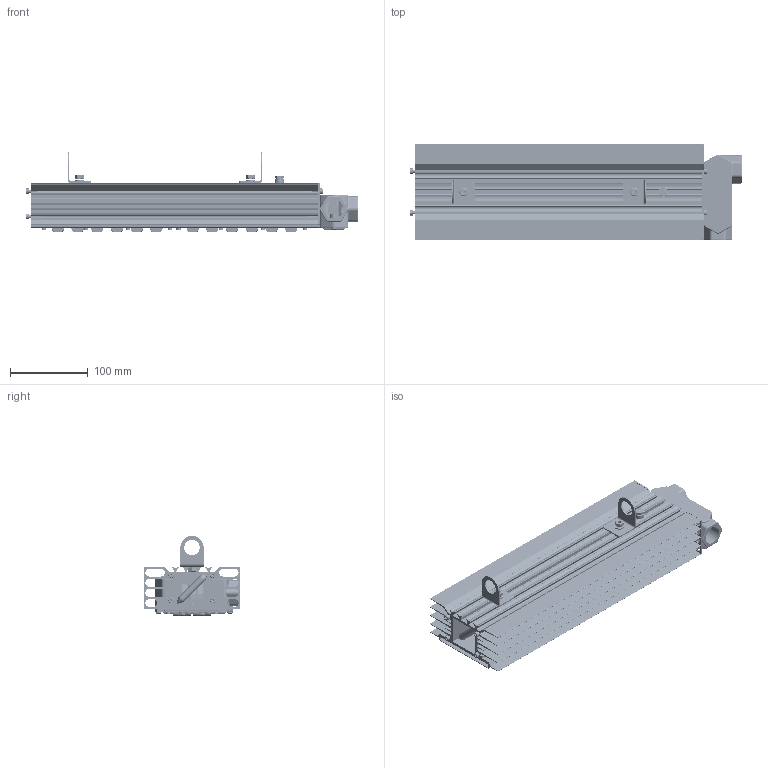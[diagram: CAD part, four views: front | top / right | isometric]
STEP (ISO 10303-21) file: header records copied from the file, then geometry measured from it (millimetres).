
FILE_DESCRIPTION((''),'2;1');
FILE_NAME('C:\Users\A.Yu.Kozyrkov\Desktop\Готовый\СГУ06-6600С_220AC_Р.stp','2020-07-09T13:57:54',('A.Yu.Kozyrkov'),(''),'Autodesk Inventor 2012','Autodesk Inventor 2012','');
FILE_SCHEMA(('AUTOMOTIVE_DESIGN { 1 0 10303 214 1 1 1 1 }'));
Length unit declared in the file: millimetre
Products named in the file (1): СГУ06-6600С_220AC_Р
Bounding box: 427.5 x 124.05 x 103.3 mm (x, y, z)
Surface area: 806604.5 mm2 (no closed solid volume)
Topology: 0 solids, 73 shells, 6026 faces, 15686 edges, 10124 vertices
Faces by surface type: plane 2420, cylinder 1281, bspline 855, cone 632, torus 578, revolution 194, sphere 66
Full cylindrical faces by diameter (mm): 0.6 x8, 1.6 x20, 2.5 x24, 2.729 x8, 3 x48, 3.2 x45, 3.242 x1, 3.621 x2, 3.85 x6, 3.9 x2, 4 x8, 4.255 x16, 4.3 x2, 4.5 x12, 4.6 x8, 4.917 x3, 5.026 x2, 5.459 x1, 5.5 x16, 5.9 x2, 6 x1, 6.4 x4, 6.5 x3, 7 x6, 7.2 x2, 7.3 x2, 8.7 x1, 9 x2, 9.4 x2, 10 x25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
Entity records: 246878 total; most frequent: CARTESIAN_POINT 102987, ORIENTED_EDGE 29340, DIRECTION 25983, EDGE_CURVE 14670, VERTEX_POINT 9830, AXIS2_PLACEMENT_3D 9618, EDGE_LOOP 7372, VECTOR 6553
